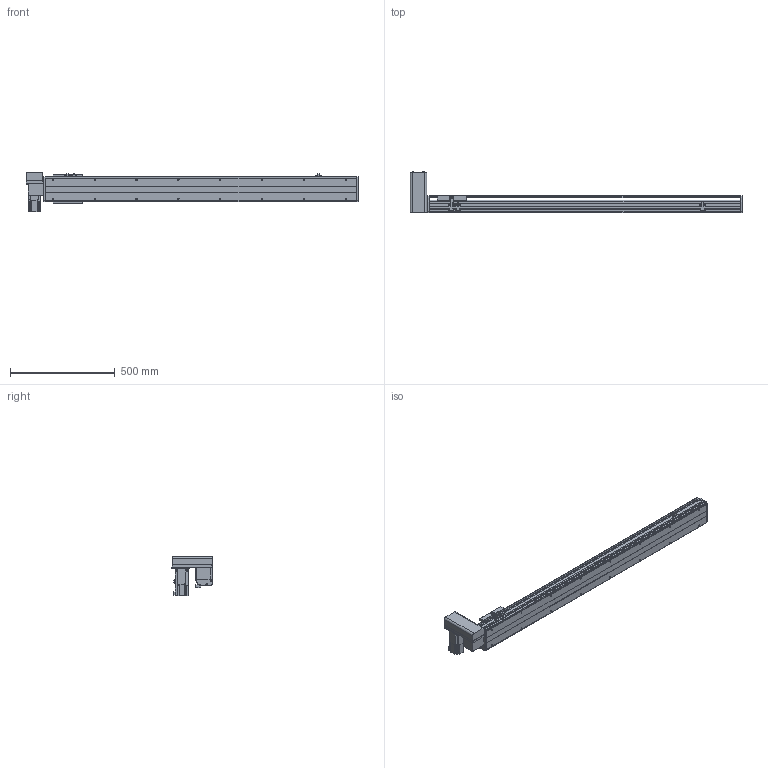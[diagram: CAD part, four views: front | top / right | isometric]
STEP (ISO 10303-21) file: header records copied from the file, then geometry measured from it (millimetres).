
FILE_DESCRIPTION( ( 'STEP AP214' ), '1' );
FILE_NAME( 'x:/temp/worker_27/temp/exporttempdir_6708_233_AcE0y/format_0/PBS120-P40-S1200-RU-T40-C1-N(0).stp', '2022-06-06T00:49:47', ( 'License CC BY-ND 4.0' ), ( 'CADENAS' ), ' ', 'PARTsolutions', ' ' );
FILE_SCHEMA( ( 'AUTOMOTIVE_DESIGN { 1 0 10303 214 1 1 1 1 }' ) );
Length unit declared in the file: millimetre
Products named in the file (7): PBS120-P40-S1200-RU-T40-C1-N(0); _PBS120-S1200()_body; _PBS120T-RU_motors; _T40-p1; _PBS120_sliser; _PBS120_plant; _PBS120_sensor
Assembly tree (8 placements, depth 2):
  PBS120-P40-S1200-RU-T40-C1-N(0)
    _PBS120-S1200()_body
    _PBS120T-RU_motors
    _T40-p1
    _PBS120_sliser
    _PBS120_plant
    _PBS120_sensor  x3
Bounding box: 1586 x 198 x 189.7 mm (x, y, z)
Volume: 6612392.1 mm3; surface area: 1307288 mm2
Topology: 8 solids, 8 shells, 828 faces, 2156 edges, 1387 vertices
Faces by surface type: plane 549, cylinder 229, cone 48, torus 2
Full cylindrical faces by diameter (mm): 2.459 x6, 3.242 x4, 4 x2, 4.134 x4, 4.5 x10, 4.917 x20, 5.5 x11, 6 x2, 6.6 x1, 7 x2, 8.5 x4, 9 x4, 12 x1, 14 x1, 30 x2, 40 x1, 50 x2
Entity records: 27324 total; most frequent: DIRECTION 3740, CARTESIAN_POINT 3677, ORIENTED_EDGE 3502, EDGE_CURVE 1751, AXIS2_PLACEMENT_3D 1256, LINE 1228, VECTOR 1228, VERTEX_POINT 1193
